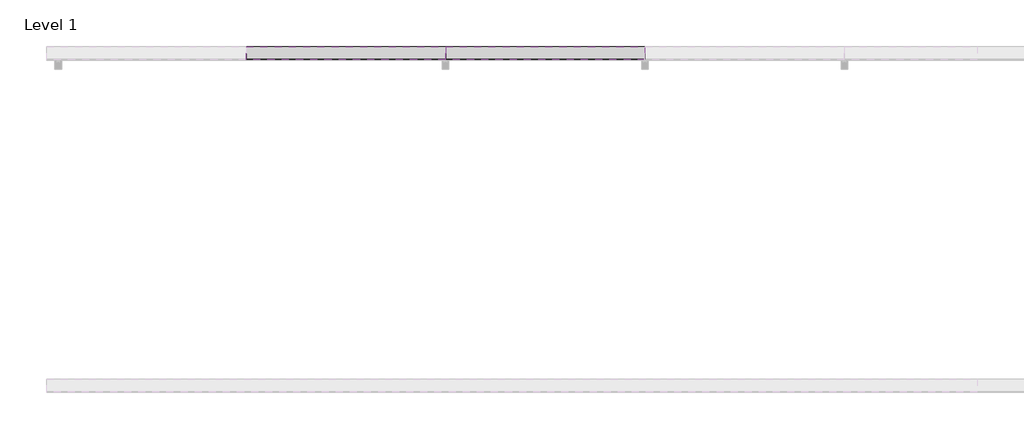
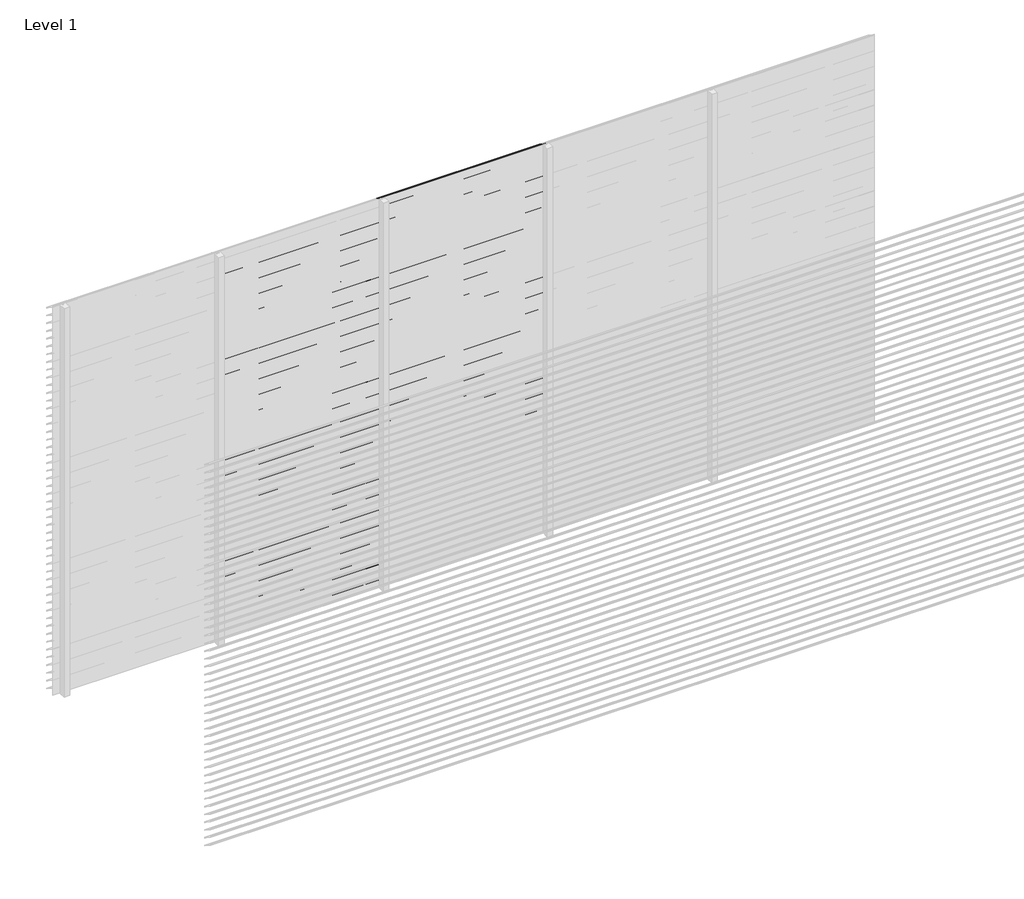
# One storey, part 67 of 153: 84 proxies.
"""IFC4 building model written with IfcOpenShell, lengths in millimetres."""

from ifc_helpers import new_model, si_unit, frame, origin, place, context, project, spatial, polyline, outline, extrude, element, save

model = new_model("IFC4")

# Units and contexts
model_context = context("Model", 3, world=origin())
ifc_project = project(units=[si_unit("LENGTHUNIT", "METRE", prefix="MILLI")], contexts=[model_context])

# Site, building, storey
site = spatial("IfcSite", under=ifc_project)
building = spatial("IfcBuilding", under=site)
storey = spatial("IfcBuildingStorey", under=building, Name="Level 1", Elevation=0.0)

# Proxies
placement = place(None, origin())
element("IfcBuildingElementProxy", 1, Name="Wall Sweeps", at=placement, inside=storey, context=model_context, shape_type="SweptSolid", body=[
    extrude(outline(polyline([(36561.0540136, 2826.0), (36561.0540136, 2820.0), (36559.8040136, 2820.7216933), (36559.8040136, 2825.2538091), (36483.0540136, 2873.9915103), (36483.0540136, 2880.0), (36484.3040136, 2880.0), (36484.3040136, 2874.7377012), (36561.0540136, 2826.0)])), frame((1666.6208099, 0.0, 0.0), z_axis=(1.0, 0.0, 0.0), x_axis=(0.0, 1.0, 0.0)), (0.0, 0.0, 1.0), 1199.9999999),
])
element("IfcBuildingElementProxy", 2, Name="Wall Sweeps", at=placement, inside=storey, context=model_context, shape_type="SweptSolid", body=[
    extrude(outline(polyline([(36561.0540136, 2766.0), (36561.0540136, 2760.0), (36559.8040136, 2760.7216933), (36559.8040136, 2765.2538091), (36483.0540136, 2813.9915103), (36483.0540136, 2820.0), (36484.3040136, 2820.0), (36484.3040136, 2814.7377012), (36561.0540136, 2766.0)])), frame((1666.6208099, 0.0, 0.0), z_axis=(1.0, 0.0, 0.0), x_axis=(0.0, 1.0, 0.0)), (0.0, 0.0, 1.0), 1199.9999999),
])
element("IfcBuildingElementProxy", 3, Name="Wall Sweeps", at=placement, inside=storey, context=model_context, shape_type="SweptSolid", body=[
    extrude(outline(polyline([(36561.0540136, 2706.0), (36561.0540136, 2700.0), (36559.8040136, 2700.7216933), (36559.8040136, 2705.2538091), (36483.0540136, 2753.9915103), (36483.0540136, 2760.0), (36484.3040136, 2760.0), (36484.3040136, 2754.7377012), (36561.0540136, 2706.0)])), frame((1666.6208099, 0.0, 0.0), z_axis=(1.0, 0.0, 0.0), x_axis=(0.0, 1.0, 0.0)), (0.0, 0.0, 1.0), 1199.9999999),
])
element("IfcBuildingElementProxy", 4, Name="Wall Sweeps", at=placement, inside=storey, context=model_context, shape_type="SweptSolid", body=[
    extrude(outline(polyline([(36561.0540136, 2646.0), (36561.0540136, 2640.0), (36559.8040136, 2640.7216933), (36559.8040136, 2645.2538091), (36483.0540136, 2693.9915103), (36483.0540136, 2700.0), (36484.3040136, 2700.0), (36484.3040136, 2694.7377012), (36561.0540136, 2646.0)])), frame((1666.6208099, 0.0, 0.0), z_axis=(1.0, 0.0, 0.0), x_axis=(0.0, 1.0, 0.0)), (0.0, 0.0, 1.0), 1199.9999999),
])
element("IfcBuildingElementProxy", 5, Name="Wall Sweeps", at=placement, inside=storey, context=model_context, shape_type="SweptSolid", body=[
    extrude(outline(polyline([(36561.0540136, 2586.0), (36561.0540136, 2580.0), (36559.8040136, 2580.7216933), (36559.8040136, 2585.2538091), (36483.0540136, 2633.9915103), (36483.0540136, 2640.0), (36484.3040136, 2640.0), (36484.3040136, 2634.7377012), (36561.0540136, 2586.0)])), frame((1666.6208099, 0.0, 0.0), z_axis=(1.0, 0.0, 0.0), x_axis=(0.0, 1.0, 0.0)), (0.0, 0.0, 1.0), 1199.9999999),
])
element("IfcBuildingElementProxy", 6, Name="Wall Sweeps", at=placement, inside=storey, context=model_context, shape_type="SweptSolid", body=[
    extrude(outline(polyline([(36561.0540136, 2526.0), (36561.0540136, 2520.0), (36559.8040136, 2520.7216933), (36559.8040136, 2525.2538091), (36483.0540136, 2573.9915103), (36483.0540136, 2580.0), (36484.3040136, 2580.0), (36484.3040136, 2574.7377012), (36561.0540136, 2526.0)])), frame((1666.6208099, 0.0, 0.0), z_axis=(1.0, 0.0, 0.0), x_axis=(0.0, 1.0, 0.0)), (0.0, 0.0, 1.0), 1199.9999999),
])
element("IfcBuildingElementProxy", 7, Name="Wall Sweeps", at=placement, inside=storey, context=model_context, shape_type="SweptSolid", body=[
    extrude(outline(polyline([(36561.0540136, 2466.0), (36561.0540136, 2460.0), (36559.8040136, 2460.7216933), (36559.8040136, 2465.2538091), (36483.0540136, 2513.9915103), (36483.0540136, 2520.0), (36484.3040136, 2520.0), (36484.3040136, 2514.7377012), (36561.0540136, 2466.0)])), frame((1666.6208099, 0.0, 0.0), z_axis=(1.0, 0.0, 0.0), x_axis=(0.0, 1.0, 0.0)), (0.0, 0.0, 1.0), 1199.9999999),
])
element("IfcBuildingElementProxy", 8, Name="Wall Sweeps", at=placement, inside=storey, context=model_context, shape_type="SweptSolid", body=[
    extrude(outline(polyline([(36561.0540136, 2406.0), (36561.0540136, 2400.0), (36559.8040136, 2400.7216933), (36559.8040136, 2405.2538091), (36483.0540136, 2453.9915103), (36483.0540136, 2460.0), (36484.3040136, 2460.0), (36484.3040136, 2454.7377012), (36561.0540136, 2406.0)])), frame((1666.6208099, 0.0, 0.0), z_axis=(1.0, 0.0, 0.0), x_axis=(0.0, 1.0, 0.0)), (0.0, 0.0, 1.0), 1199.9999999),
])
element("IfcBuildingElementProxy", 9, Name="Wall Sweeps", at=placement, inside=storey, context=model_context, shape_type="SweptSolid", body=[
    extrude(outline(polyline([(36561.0540136, 2346.0), (36561.0540136, 2340.0), (36559.8040136, 2340.7216933), (36559.8040136, 2345.2538091), (36483.0540136, 2393.9915103), (36483.0540136, 2400.0), (36484.3040136, 2400.0), (36484.3040136, 2394.7377012), (36561.0540136, 2346.0)])), frame((1666.6208099, 0.0, 0.0), z_axis=(1.0, 0.0, 0.0), x_axis=(0.0, 1.0, 0.0)), (0.0, 0.0, 1.0), 1199.9999999),
])
element("IfcBuildingElementProxy", 10, Name="Wall Sweeps", at=placement, inside=storey, context=model_context, shape_type="SweptSolid", body=[
    extrude(outline(polyline([(36561.0540136, 2286.0), (36561.0540136, 2280.0), (36559.8040136, 2280.7216933), (36559.8040136, 2285.2538091), (36483.0540136, 2333.9915103), (36483.0540136, 2340.0), (36484.3040136, 2340.0), (36484.3040136, 2334.7377012), (36561.0540136, 2286.0)])), frame((1666.6208099, 0.0, 0.0), z_axis=(1.0, 0.0, 0.0), x_axis=(0.0, 1.0, 0.0)), (0.0, 0.0, 1.0), 1199.9999999),
])
element("IfcBuildingElementProxy", 11, Name="Wall Sweeps", at=placement, inside=storey, context=model_context, shape_type="SweptSolid", body=[
    extrude(outline(polyline([(36561.0540136, 2226.0), (36561.0540136, 2220.0), (36559.8040136, 2220.7216933), (36559.8040136, 2225.2538091), (36483.0540136, 2273.9915103), (36483.0540136, 2280.0), (36484.3040136, 2280.0), (36484.3040136, 2274.7377012), (36561.0540136, 2226.0)])), frame((1666.6208099, 0.0, 0.0), z_axis=(1.0, 0.0, 0.0), x_axis=(0.0, 1.0, 0.0)), (0.0, 0.0, 1.0), 1199.9999999),
])
element("IfcBuildingElementProxy", 12, Name="Wall Sweeps", at=placement, inside=storey, context=model_context, shape_type="SweptSolid", body=[
    extrude(outline(polyline([(36561.0540136, 2166.0), (36561.0540136, 2160.0), (36559.8040136, 2160.7216933), (36559.8040136, 2165.2538091), (36483.0540136, 2213.9915103), (36483.0540136, 2220.0), (36484.3040136, 2220.0), (36484.3040136, 2214.7377012), (36561.0540136, 2166.0)])), frame((1666.6208099, 0.0, 0.0), z_axis=(1.0, 0.0, 0.0), x_axis=(0.0, 1.0, 0.0)), (0.0, 0.0, 1.0), 1199.9999999),
])
element("IfcBuildingElementProxy", 13, Name="Wall Sweeps", at=placement, inside=storey, context=model_context, shape_type="SweptSolid", body=[
    extrude(outline(polyline([(36561.0540136, 2106.0), (36561.0540136, 2100.0), (36559.8040136, 2100.7216933), (36559.8040136, 2105.2538091), (36483.0540136, 2153.9915103), (36483.0540136, 2160.0), (36484.3040136, 2160.0), (36484.3040136, 2154.7377012), (36561.0540136, 2106.0)])), frame((1666.6208099, 0.0, 0.0), z_axis=(1.0, 0.0, 0.0), x_axis=(0.0, 1.0, 0.0)), (0.0, 0.0, 1.0), 1199.9999999),
])
element("IfcBuildingElementProxy", 14, Name="Wall Sweeps", at=placement, inside=storey, context=model_context, shape_type="SweptSolid", body=[
    extrude(outline(polyline([(36561.0540136, 2046.0), (36561.0540136, 2040.0), (36559.8040136, 2040.7216933), (36559.8040136, 2045.2538091), (36483.0540136, 2093.9915103), (36483.0540136, 2100.0), (36484.3040136, 2100.0), (36484.3040136, 2094.7377012), (36561.0540136, 2046.0)])), frame((1666.6208099, 0.0, 0.0), z_axis=(1.0, 0.0, 0.0), x_axis=(0.0, 1.0, 0.0)), (0.0, 0.0, 1.0), 1199.9999999),
])
element("IfcBuildingElementProxy", 15, Name="Wall Sweeps", at=placement, inside=storey, context=model_context, shape_type="SweptSolid", body=[
    extrude(outline(polyline([(36561.0540136, 1986.0), (36561.0540136, 1980.0), (36559.8040136, 1980.7216933), (36559.8040136, 1985.2538091), (36483.0540136, 2033.9915103), (36483.0540136, 2040.0), (36484.3040136, 2040.0), (36484.3040136, 2034.7377012), (36561.0540136, 1986.0)])), frame((1666.6208099, 0.0, 0.0), z_axis=(1.0, 0.0, 0.0), x_axis=(0.0, 1.0, 0.0)), (0.0, 0.0, 1.0), 1199.9999999),
])
element("IfcBuildingElementProxy", 16, Name="Wall Sweeps", at=placement, inside=storey, context=model_context, shape_type="SweptSolid", body=[
    extrude(outline(polyline([(36561.0540136, 1926.0), (36561.0540136, 1920.0), (36559.8040136, 1920.7216933), (36559.8040136, 1925.2538091), (36483.0540136, 1973.9915103), (36483.0540136, 1980.0), (36484.3040136, 1980.0), (36484.3040136, 1974.7377012), (36561.0540136, 1926.0)])), frame((1666.6208099, 0.0, 0.0), z_axis=(1.0, 0.0, 0.0), x_axis=(0.0, 1.0, 0.0)), (0.0, 0.0, 1.0), 1199.9999999),
])
element("IfcBuildingElementProxy", 17, Name="Wall Sweeps", at=placement, inside=storey, context=model_context, shape_type="SweptSolid", body=[
    extrude(outline(polyline([(36561.0540136, 1866.0), (36561.0540136, 1860.0), (36559.8040136, 1860.7216933), (36559.8040136, 1865.2538091), (36483.0540136, 1913.9915103), (36483.0540136, 1920.0), (36484.3040136, 1920.0), (36484.3040136, 1914.7377012), (36561.0540136, 1866.0)])), frame((1666.6208099, 0.0, 0.0), z_axis=(1.0, 0.0, 0.0), x_axis=(0.0, 1.0, 0.0)), (0.0, 0.0, 1.0), 1199.9999999),
])
element("IfcBuildingElementProxy", 18, Name="Wall Sweeps", at=placement, inside=storey, context=model_context, shape_type="SweptSolid", body=[
    extrude(outline(polyline([(36561.0540136, 1806.0), (36561.0540136, 1800.0), (36559.8040136, 1800.7216933), (36559.8040136, 1805.2538091), (36483.0540136, 1853.9915103), (36483.0540136, 1860.0), (36484.3040136, 1860.0), (36484.3040136, 1854.7377012), (36561.0540136, 1806.0)])), frame((1666.6208099, 0.0, 0.0), z_axis=(1.0, 0.0, 0.0), x_axis=(0.0, 1.0, 0.0)), (0.0, 0.0, 1.0), 1199.9999999),
])
element("IfcBuildingElementProxy", 19, Name="Wall Sweeps", at=placement, inside=storey, context=model_context, shape_type="SweptSolid", body=[
    extrude(outline(polyline([(36561.0540136, 1746.0), (36561.0540136, 1740.0), (36559.8040136, 1740.7216933), (36559.8040136, 1745.2538091), (36483.0540136, 1793.9915103), (36483.0540136, 1800.0), (36484.3040136, 1800.0), (36484.3040136, 1794.7377012), (36561.0540136, 1746.0)])), frame((1666.6208099, 0.0, 0.0), z_axis=(1.0, 0.0, 0.0), x_axis=(0.0, 1.0, 0.0)), (0.0, 0.0, 1.0), 1199.9999999),
])
element("IfcBuildingElementProxy", 20, Name="Wall Sweeps", at=placement, inside=storey, context=model_context, shape_type="SweptSolid", body=[
    extrude(outline(polyline([(36561.0540136, 1686.0), (36561.0540136, 1680.0), (36559.8040136, 1680.7216933), (36559.8040136, 1685.2538091), (36483.0540136, 1733.9915103), (36483.0540136, 1740.0), (36484.3040136, 1740.0), (36484.3040136, 1734.7377012), (36561.0540136, 1686.0)])), frame((1666.6208099, 0.0, 0.0), z_axis=(1.0, 0.0, 0.0), x_axis=(0.0, 1.0, 0.0)), (0.0, 0.0, 1.0), 1199.9999999),
])
element("IfcBuildingElementProxy", 21, Name="Wall Sweeps", at=placement, inside=storey, context=model_context, shape_type="SweptSolid", body=[
    extrude(outline(polyline([(36561.0540136, 1626.0), (36561.0540136, 1620.0), (36559.8040136, 1620.7216933), (36559.8040136, 1625.2538091), (36483.0540136, 1673.9915103), (36483.0540136, 1680.0), (36484.3040136, 1680.0), (36484.3040136, 1674.7377012), (36561.0540136, 1626.0)])), frame((1666.6208099, 0.0, 0.0), z_axis=(1.0, 0.0, 0.0), x_axis=(0.0, 1.0, 0.0)), (0.0, 0.0, 1.0), 1199.9999999),
])
element("IfcBuildingElementProxy", 22, Name="Wall Sweeps", at=placement, inside=storey, context=model_context, shape_type="SweptSolid", body=[
    extrude(outline(polyline([(36561.0540136, 1566.0), (36561.0540136, 1560.0), (36559.8040136, 1560.7216933), (36559.8040136, 1565.2538091), (36483.0540136, 1613.9915103), (36483.0540136, 1620.0), (36484.3040136, 1620.0), (36484.3040136, 1614.7377012), (36561.0540136, 1566.0)])), frame((1666.6208099, 0.0, 0.0), z_axis=(1.0, 0.0, 0.0), x_axis=(0.0, 1.0, 0.0)), (0.0, 0.0, 1.0), 1199.9999999),
])
element("IfcBuildingElementProxy", 23, Name="Wall Sweeps", at=placement, inside=storey, context=model_context, shape_type="SweptSolid", body=[
    extrude(outline(polyline([(36561.0540136, 1506.0), (36561.0540136, 1500.0), (36559.8040136, 1500.7216933), (36559.8040136, 1505.2538091), (36483.0540136, 1553.9915103), (36483.0540136, 1560.0), (36484.3040136, 1560.0), (36484.3040136, 1554.7377012), (36561.0540136, 1506.0)])), frame((1666.6208099, 0.0, 0.0), z_axis=(1.0, 0.0, 0.0), x_axis=(0.0, 1.0, 0.0)), (0.0, 0.0, 1.0), 1199.9999999),
])
element("IfcBuildingElementProxy", 24, Name="Wall Sweeps", at=placement, inside=storey, context=model_context, shape_type="SweptSolid", body=[
    extrude(outline(polyline([(36561.0540136, 1446.0), (36561.0540136, 1440.0), (36559.8040136, 1440.7216933), (36559.8040136, 1445.2538091), (36483.0540136, 1493.9915103), (36483.0540136, 1500.0), (36484.3040136, 1500.0), (36484.3040136, 1494.7377012), (36561.0540136, 1446.0)])), frame((1666.6208099, 0.0, 0.0), z_axis=(1.0, 0.0, 0.0), x_axis=(0.0, 1.0, 0.0)), (0.0, 0.0, 1.0), 1199.9999999),
])
element("IfcBuildingElementProxy", 25, Name="Wall Sweeps", at=placement, inside=storey, context=model_context, shape_type="SweptSolid", body=[
    extrude(outline(polyline([(36561.0540136, 1386.0), (36561.0540136, 1380.0), (36559.8040136, 1380.7216933), (36559.8040136, 1385.2538091), (36483.0540136, 1433.9915103), (36483.0540136, 1440.0), (36484.3040136, 1440.0), (36484.3040136, 1434.7377012), (36561.0540136, 1386.0)])), frame((1666.6208099, 0.0, 0.0), z_axis=(1.0, 0.0, 0.0), x_axis=(0.0, 1.0, 0.0)), (0.0, 0.0, 1.0), 1199.9999999),
])
element("IfcBuildingElementProxy", 26, Name="Wall Sweeps", at=placement, inside=storey, context=model_context, shape_type="SweptSolid", body=[
    extrude(outline(polyline([(36561.0540136, 1326.0), (36561.0540136, 1320.0), (36559.8040136, 1320.7216933), (36559.8040136, 1325.2538091), (36483.0540136, 1373.9915103), (36483.0540136, 1380.0), (36484.3040136, 1380.0), (36484.3040136, 1374.7377012), (36561.0540136, 1326.0)])), frame((1666.6208099, 0.0, 0.0), z_axis=(1.0, 0.0, 0.0), x_axis=(0.0, 1.0, 0.0)), (0.0, 0.0, 1.0), 1199.9999999),
])
element("IfcBuildingElementProxy", 27, Name="Wall Sweeps", at=placement, inside=storey, context=model_context, shape_type="SweptSolid", body=[
    extrude(outline(polyline([(36561.0540136, 1266.0), (36561.0540136, 1260.0), (36559.8040136, 1260.7216933), (36559.8040136, 1265.2538091), (36483.0540136, 1313.9915103), (36483.0540136, 1320.0), (36484.3040136, 1320.0), (36484.3040136, 1314.7377012), (36561.0540136, 1266.0)])), frame((1666.6208099, 0.0, 0.0), z_axis=(1.0, 0.0, 0.0), x_axis=(0.0, 1.0, 0.0)), (0.0, 0.0, 1.0), 1199.9999999),
])
element("IfcBuildingElementProxy", 28, Name="Wall Sweeps", at=placement, inside=storey, context=model_context, shape_type="SweptSolid", body=[
    extrude(outline(polyline([(36561.0540136, 1206.0), (36561.0540136, 1200.0), (36559.8040136, 1200.7216933), (36559.8040136, 1205.2538091), (36483.0540136, 1253.9915103), (36483.0540136, 1260.0), (36484.3040136, 1260.0), (36484.3040136, 1254.7377012), (36561.0540136, 1206.0)])), frame((1666.6208099, 0.0, 0.0), z_axis=(1.0, 0.0, 0.0), x_axis=(0.0, 1.0, 0.0)), (0.0, 0.0, 1.0), 1199.9999999),
])
element("IfcBuildingElementProxy", 29, Name="Wall Sweeps", at=placement, inside=storey, context=model_context, shape_type="SweptSolid", body=[
    extrude(outline(polyline([(36561.0540136, 1146.0), (36561.0540136, 1140.0), (36559.8040136, 1140.7216933), (36559.8040136, 1145.2538091), (36483.0540136, 1193.9915103), (36483.0540136, 1200.0), (36484.3040136, 1200.0), (36484.3040136, 1194.7377012), (36561.0540136, 1146.0)])), frame((1666.6208099, 0.0, 0.0), z_axis=(1.0, 0.0, 0.0), x_axis=(0.0, 1.0, 0.0)), (0.0, 0.0, 1.0), 1199.9999999),
])
element("IfcBuildingElementProxy", 30, Name="Wall Sweeps", at=placement, inside=storey, context=model_context, shape_type="SweptSolid", body=[
    extrude(outline(polyline([(36561.0540136, 1086.0), (36561.0540136, 1080.0), (36559.8040136, 1080.7216933), (36559.8040136, 1085.2538091), (36483.0540136, 1133.9915103), (36483.0540136, 1140.0), (36484.3040136, 1140.0), (36484.3040136, 1134.7377012), (36561.0540136, 1086.0)])), frame((1666.6208099, 0.0, 0.0), z_axis=(1.0, 0.0, 0.0), x_axis=(0.0, 1.0, 0.0)), (0.0, 0.0, 1.0), 1199.9999999),
])
element("IfcBuildingElementProxy", 31, Name="Wall Sweeps", at=placement, inside=storey, context=model_context, shape_type="SweptSolid", body=[
    extrude(outline(polyline([(36561.0540136, 1026.0), (36561.0540136, 1020.0), (36559.8040136, 1020.7216933), (36559.8040136, 1025.2538091), (36483.0540136, 1073.9915103), (36483.0540136, 1080.0), (36484.3040136, 1080.0), (36484.3040136, 1074.7377012), (36561.0540136, 1026.0)])), frame((1666.6208099, 0.0, 0.0), z_axis=(1.0, 0.0, 0.0), x_axis=(0.0, 1.0, 0.0)), (0.0, 0.0, 1.0), 1199.9999999),
])
element("IfcBuildingElementProxy", 32, Name="Wall Sweeps", at=placement, inside=storey, context=model_context, shape_type="SweptSolid", body=[
    extrude(outline(polyline([(36561.0540136, 966.0), (36561.0540136, 960.0), (36559.8040136, 960.7216933), (36559.8040136, 965.2538091), (36483.0540136, 1013.9915103), (36483.0540136, 1020.0), (36484.3040136, 1020.0), (36484.3040136, 1014.7377012), (36561.0540136, 966.0)])), frame((1666.6208099, 0.0, 0.0), z_axis=(1.0, 0.0, 0.0), x_axis=(0.0, 1.0, 0.0)), (0.0, 0.0, 1.0), 1199.9999999),
])
element("IfcBuildingElementProxy", 33, Name="Wall Sweeps", at=placement, inside=storey, context=model_context, shape_type="SweptSolid", body=[
    extrude(outline(polyline([(36561.0540136, 906.0), (36561.0540136, 900.0), (36559.8040136, 900.7216933), (36559.8040136, 905.2538091), (36483.0540136, 953.9915103), (36483.0540136, 960.0), (36484.3040136, 960.0), (36484.3040136, 954.7377012), (36561.0540136, 906.0)])), frame((1666.6208099, 0.0, 0.0), z_axis=(1.0, 0.0, 0.0), x_axis=(0.0, 1.0, 0.0)), (0.0, 0.0, 1.0), 1199.9999999),
])
element("IfcBuildingElementProxy", 34, Name="Wall Sweeps", at=placement, inside=storey, context=model_context, shape_type="SweptSolid", body=[
    extrude(outline(polyline([(36561.0540136, 846.0), (36561.0540136, 840.0), (36559.8040136, 840.7216933), (36559.8040136, 845.2538091), (36483.0540136, 893.9915103), (36483.0540136, 900.0), (36484.3040136, 900.0), (36484.3040136, 894.7377012), (36561.0540136, 846.0)])), frame((1666.6208099, 0.0, 0.0), z_axis=(1.0, 0.0, 0.0), x_axis=(0.0, 1.0, 0.0)), (0.0, 0.0, 1.0), 1199.9999999),
])
element("IfcBuildingElementProxy", 35, Name="Wall Sweeps", at=placement, inside=storey, context=model_context, shape_type="SweptSolid", body=[
    extrude(outline(polyline([(36561.0540136, 786.0), (36561.0540136, 780.0), (36559.8040136, 780.7216933), (36559.8040136, 785.2538091), (36483.0540136, 833.9915103), (36483.0540136, 840.0), (36484.3040136, 840.0), (36484.3040136, 834.7377012), (36561.0540136, 786.0)])), frame((1666.6208099, 0.0, 0.0), z_axis=(1.0, 0.0, 0.0), x_axis=(0.0, 1.0, 0.0)), (0.0, 0.0, 1.0), 1199.9999999),
])
element("IfcBuildingElementProxy", 36, Name="Wall Sweeps", at=placement, inside=storey, context=model_context, shape_type="SweptSolid", body=[
    extrude(outline(polyline([(36561.0540136, 726.0), (36561.0540136, 720.0), (36559.8040136, 720.7216933), (36559.8040136, 725.2538091), (36483.0540136, 773.9915103), (36483.0540136, 780.0), (36484.3040136, 780.0), (36484.3040136, 774.7377012), (36561.0540136, 726.0)])), frame((1666.6208099, 0.0, 0.0), z_axis=(1.0, 0.0, 0.0), x_axis=(0.0, 1.0, 0.0)), (0.0, 0.0, 1.0), 1199.9999999),
])
element("IfcBuildingElementProxy", 37, Name="Wall Sweeps", at=placement, inside=storey, context=model_context, shape_type="SweptSolid", body=[
    extrude(outline(polyline([(36561.0540136, 666.0), (36561.0540136, 660.0), (36559.8040136, 660.7216933), (36559.8040136, 665.2538091), (36483.0540136, 713.9915103), (36483.0540136, 720.0), (36484.3040136, 720.0), (36484.3040136, 714.7377012), (36561.0540136, 666.0)])), frame((1666.6208099, 0.0, 0.0), z_axis=(1.0, 0.0, 0.0), x_axis=(0.0, 1.0, 0.0)), (0.0, 0.0, 1.0), 1199.9999999),
])
element("IfcBuildingElementProxy", 38, Name="Wall Sweeps", at=placement, inside=storey, context=model_context, shape_type="SweptSolid", body=[
    extrude(outline(polyline([(36561.0540136, 606.0), (36561.0540136, 600.0), (36559.8040136, 600.7216933), (36559.8040136, 605.2538091), (36483.0540136, 653.9915103), (36483.0540136, 660.0), (36484.3040136, 660.0), (36484.3040136, 654.7377012), (36561.0540136, 606.0)])), frame((1666.6208099, 0.0, 0.0), z_axis=(1.0, 0.0, 0.0), x_axis=(0.0, 1.0, 0.0)), (0.0, 0.0, 1.0), 1199.9999999),
])
element("IfcBuildingElementProxy", 39, Name="Wall Sweeps", at=placement, inside=storey, context=model_context, shape_type="SweptSolid", body=[
    extrude(outline(polyline([(36561.0540136, 546.0), (36561.0540136, 540.0), (36559.8040136, 540.7216933), (36559.8040136, 545.2538091), (36483.0540136, 593.9915103), (36483.0540136, 600.0), (36484.3040136, 600.0), (36484.3040136, 594.7377012), (36561.0540136, 546.0)])), frame((1666.6208099, 0.0, 0.0), z_axis=(1.0, 0.0, 0.0), x_axis=(0.0, 1.0, 0.0)), (0.0, 0.0, 1.0), 1199.9999999),
])
element("IfcBuildingElementProxy", 40, Name="Wall Sweeps", at=placement, inside=storey, context=model_context, shape_type="SweptSolid", body=[
    extrude(outline(polyline([(36561.0540136, 486.0), (36561.0540136, 480.0), (36559.8040136, 480.7216933), (36559.8040136, 485.2538091), (36483.0540136, 533.9915103), (36483.0540136, 540.0), (36484.3040136, 540.0), (36484.3040136, 534.7377012), (36561.0540136, 486.0)])), frame((1666.6208099, 0.0, 0.0), z_axis=(1.0, 0.0, 0.0), x_axis=(0.0, 1.0, 0.0)), (0.0, 0.0, 1.0), 1199.9999999),
])
element("IfcBuildingElementProxy", 41, Name="Wall Sweeps", at=placement, inside=storey, context=model_context, shape_type="SweptSolid", body=[
    extrude(outline(polyline([(36561.0540136, 426.0), (36561.0540136, 420.0), (36559.8040136, 420.7216933), (36559.8040136, 425.2538091), (36483.0540136, 473.9915103), (36483.0540136, 480.0), (36484.3040136, 480.0), (36484.3040136, 474.7377012), (36561.0540136, 426.0)])), frame((1666.6208099, 0.0, 0.0), z_axis=(1.0, 0.0, 0.0), x_axis=(0.0, 1.0, 0.0)), (0.0, 0.0, 1.0), 1199.9999999),
])
element("IfcBuildingElementProxy", 42, Name="Wall Sweeps", at=placement, inside=storey, context=model_context, shape_type="SweptSolid", body=[
    extrude(outline(polyline([(36561.0540136, 366.0), (36561.0540136, 360.0), (36559.8040136, 360.7216933), (36559.8040136, 365.2538091), (36483.0540136, 413.9915103), (36483.0540136, 420.0), (36484.3040136, 420.0), (36484.3040136, 414.7377012), (36561.0540136, 366.0)])), frame((1666.6208099, 0.0, 0.0), z_axis=(1.0, 0.0, 0.0), x_axis=(0.0, 1.0, 0.0)), (0.0, 0.0, 1.0), 1199.9999999),
])
element("IfcBuildingElementProxy", 43, Name="Wall Sweeps", at=placement, inside=storey, context=model_context, shape_type="SweptSolid", body=[
    extrude(outline(polyline([(36561.0540136, 306.0), (36561.0540136, 300.0), (36559.8040136, 300.7216933), (36559.8040136, 305.2538091), (36483.0540136, 353.9915103), (36483.0540136, 360.0), (36484.3040136, 360.0), (36484.3040136, 354.7377012), (36561.0540136, 306.0)])), frame((1666.6208099, 0.0, 0.0), z_axis=(1.0, 0.0, 0.0), x_axis=(0.0, 1.0, 0.0)), (0.0, 0.0, 1.0), 1199.9999999),
])
element("IfcBuildingElementProxy", 44, Name="Wall Sweeps", at=placement, inside=storey, context=model_context, shape_type="SweptSolid", body=[
    extrude(outline(polyline([(36561.0540136, 246.0), (36561.0540136, 240.0), (36559.8040136, 240.7216933), (36559.8040136, 245.2538091), (36483.0540136, 293.9915103), (36483.0540136, 300.0), (36484.3040136, 300.0), (36484.3040136, 294.7377012), (36561.0540136, 246.0)])), frame((1666.6208099, 0.0, 0.0), z_axis=(1.0, 0.0, 0.0), x_axis=(0.0, 1.0, 0.0)), (0.0, 0.0, 1.0), 1199.9999999),
])
element("IfcBuildingElementProxy", 45, Name="Wall Sweeps", at=placement, inside=storey, context=model_context, shape_type="SweptSolid", body=[
    extrude(outline(polyline([(36561.0540136, 186.0), (36561.0540136, 180.0), (36559.8040136, 180.7216933), (36559.8040136, 185.2538091), (36483.0540136, 233.9915103), (36483.0540136, 240.0), (36484.3040136, 240.0), (36484.3040136, 234.7377012), (36561.0540136, 186.0)])), frame((1666.6208099, 0.0, 0.0), z_axis=(1.0, 0.0, 0.0), x_axis=(0.0, 1.0, 0.0)), (0.0, 0.0, 1.0), 1199.9999999),
])
element("IfcBuildingElementProxy", 46, Name="Wall Sweeps", at=placement, inside=storey, context=model_context, shape_type="SweptSolid", body=[
    extrude(outline(polyline([(36561.0540136, 126.0), (36561.0540136, 120.0), (36559.8040136, 120.7216933), (36559.8040136, 125.2538091), (36483.0540136, 173.9915103), (36483.0540136, 180.0), (36484.3040136, 180.0), (36484.3040136, 174.7377012), (36561.0540136, 126.0)])), frame((1666.6208099, 0.0, 0.0), z_axis=(1.0, 0.0, 0.0), x_axis=(0.0, 1.0, 0.0)), (0.0, 0.0, 1.0), 1199.9999999),
])
element("IfcBuildingElementProxy", 47, Name="Wall Sweeps", at=placement, inside=storey, context=model_context, shape_type="SweptSolid", body=[
    extrude(outline(polyline([(36561.0540136, 66.0), (36561.0540136, 60.0), (36559.8040136, 60.7216933), (36559.8040136, 65.2538091), (36483.0540136, 113.9915103), (36483.0540136, 120.0), (36484.3040136, 120.0), (36484.3040136, 114.7377012), (36561.0540136, 66.0)])), frame((1666.6208099, 0.0, 0.0), z_axis=(1.0, 0.0, 0.0), x_axis=(0.0, 1.0, 0.0)), (0.0, 0.0, 1.0), 1199.9999999),
])
element("IfcBuildingElementProxy", 48, Name="Wall Sweeps", at=placement, inside=storey, context=model_context, shape_type="SweptSolid", body=[
    extrude(outline(polyline([(36561.0540136, 6.0), (36561.0540136, 0.0), (36559.8040136, 0.7216933), (36559.8040136, 5.2538091), (36483.0540136, 53.9915103), (36483.0540136, 60.0), (36484.3040136, 60.0), (36484.3040136, 54.7377012), (36561.0540136, 6.0)])), frame((1666.6208099, 0.0, 0.0), z_axis=(1.0, 0.0, 0.0), x_axis=(0.0, 1.0, 0.0)), (0.0, 0.0, 1.0), 1199.9999999),
])
element("IfcBuildingElementProxy", 49, Name="Wall Sweeps", at=placement, inside=storey, context=model_context, shape_type="SweptSolid", body=[
    extrude(outline(polyline([(36561.0540136, 2946.0), (36561.0540136, 2940.0), (36559.8040136, 2940.7216933), (36559.8040136, 2945.2538091), (36483.0540136, 2993.9915103), (36483.0540136, 3000.0), (36484.3040136, 3000.0), (36484.3040136, 2994.7377012), (36561.0540136, 2946.0)])), frame((2866.6208097, 0.0, 0.0), z_axis=(1.0, 0.0, 0.0), x_axis=(0.0, 1.0, 0.0)), (0.0, 0.0, 1.0), 1199.9999999),
])
element("IfcBuildingElementProxy", 50, Name="Wall Sweeps", at=placement, inside=storey, context=model_context, shape_type="SweptSolid", body=[
    extrude(outline(polyline([(36561.0540136, 2886.0), (36561.0540136, 2880.0), (36559.8040136, 2880.7216933), (36559.8040136, 2885.2538091), (36483.0540136, 2933.9915103), (36483.0540136, 2940.0), (36484.3040136, 2940.0), (36484.3040136, 2934.7377012), (36561.0540136, 2886.0)])), frame((2866.6208097, 0.0, 0.0), z_axis=(1.0, 0.0, 0.0), x_axis=(0.0, 1.0, 0.0)), (0.0, 0.0, 1.0), 1199.9999999),
])
element("IfcBuildingElementProxy", 51, Name="Wall Sweeps", at=placement, inside=storey, context=model_context, shape_type="SweptSolid", body=[
    extrude(outline(polyline([(36561.0540136, 2826.0), (36561.0540136, 2820.0), (36559.8040136, 2820.7216933), (36559.8040136, 2825.2538091), (36483.0540136, 2873.9915103), (36483.0540136, 2880.0), (36484.3040136, 2880.0), (36484.3040136, 2874.7377012), (36561.0540136, 2826.0)])), frame((2866.6208097, 0.0, 0.0), z_axis=(1.0, 0.0, 0.0), x_axis=(0.0, 1.0, 0.0)), (0.0, 0.0, 1.0), 1199.9999999),
])
element("IfcBuildingElementProxy", 52, Name="Wall Sweeps", at=placement, inside=storey, context=model_context, shape_type="SweptSolid", body=[
    extrude(outline(polyline([(36561.0540136, 2766.0), (36561.0540136, 2760.0), (36559.8040136, 2760.7216933), (36559.8040136, 2765.2538091), (36483.0540136, 2813.9915103), (36483.0540136, 2820.0), (36484.3040136, 2820.0), (36484.3040136, 2814.7377012), (36561.0540136, 2766.0)])), frame((2866.6208097, 0.0, 0.0), z_axis=(1.0, 0.0, 0.0), x_axis=(0.0, 1.0, 0.0)), (0.0, 0.0, 1.0), 1199.9999999),
])
element("IfcBuildingElementProxy", 53, Name="Wall Sweeps", at=placement, inside=storey, context=model_context, shape_type="SweptSolid", body=[
    extrude(outline(polyline([(36561.0540136, 2706.0), (36561.0540136, 2700.0), (36559.8040136, 2700.7216933), (36559.8040136, 2705.2538091), (36483.0540136, 2753.9915103), (36483.0540136, 2760.0), (36484.3040136, 2760.0), (36484.3040136, 2754.7377012), (36561.0540136, 2706.0)])), frame((2866.6208097, 0.0, 0.0), z_axis=(1.0, 0.0, 0.0), x_axis=(0.0, 1.0, 0.0)), (0.0, 0.0, 1.0), 1199.9999999),
])
element("IfcBuildingElementProxy", 54, Name="Wall Sweeps", at=placement, inside=storey, context=model_context, shape_type="SweptSolid", body=[
    extrude(outline(polyline([(36561.0540136, 2646.0), (36561.0540136, 2640.0), (36559.8040136, 2640.7216933), (36559.8040136, 2645.2538091), (36483.0540136, 2693.9915103), (36483.0540136, 2700.0), (36484.3040136, 2700.0), (36484.3040136, 2694.7377012), (36561.0540136, 2646.0)])), frame((2866.6208097, 0.0, 0.0), z_axis=(1.0, 0.0, 0.0), x_axis=(0.0, 1.0, 0.0)), (0.0, 0.0, 1.0), 1199.9999999),
])
element("IfcBuildingElementProxy", 55, Name="Wall Sweeps", at=placement, inside=storey, context=model_context, shape_type="SweptSolid", body=[
    extrude(outline(polyline([(36561.0540136, 2586.0), (36561.0540136, 2580.0), (36559.8040136, 2580.7216933), (36559.8040136, 2585.2538091), (36483.0540136, 2633.9915103), (36483.0540136, 2640.0), (36484.3040136, 2640.0), (36484.3040136, 2634.7377012), (36561.0540136, 2586.0)])), frame((2866.6208097, 0.0, 0.0), z_axis=(1.0, 0.0, 0.0), x_axis=(0.0, 1.0, 0.0)), (0.0, 0.0, 1.0), 1199.9999999),
])
element("IfcBuildingElementProxy", 56, Name="Wall Sweeps", at=placement, inside=storey, context=model_context, shape_type="SweptSolid", body=[
    extrude(outline(polyline([(36561.0540136, 2526.0), (36561.0540136, 2520.0), (36559.8040136, 2520.7216933), (36559.8040136, 2525.2538091), (36483.0540136, 2573.9915103), (36483.0540136, 2580.0), (36484.3040136, 2580.0), (36484.3040136, 2574.7377012), (36561.0540136, 2526.0)])), frame((2866.6208097, 0.0, 0.0), z_axis=(1.0, 0.0, 0.0), x_axis=(0.0, 1.0, 0.0)), (0.0, 0.0, 1.0), 1199.9999999),
])
element("IfcBuildingElementProxy", 57, Name="Wall Sweeps", at=placement, inside=storey, context=model_context, shape_type="SweptSolid", body=[
    extrude(outline(polyline([(36561.0540136, 2466.0), (36561.0540136, 2460.0), (36559.8040136, 2460.7216933), (36559.8040136, 2465.2538091), (36483.0540136, 2513.9915103), (36483.0540136, 2520.0), (36484.3040136, 2520.0), (36484.3040136, 2514.7377012), (36561.0540136, 2466.0)])), frame((2866.6208097, 0.0, 0.0), z_axis=(1.0, 0.0, 0.0), x_axis=(0.0, 1.0, 0.0)), (0.0, 0.0, 1.0), 1199.9999999),
])
element("IfcBuildingElementProxy", 58, Name="Wall Sweeps", at=placement, inside=storey, context=model_context, shape_type="SweptSolid", body=[
    extrude(outline(polyline([(36561.0540136, 2406.0), (36561.0540136, 2400.0), (36559.8040136, 2400.7216933), (36559.8040136, 2405.2538091), (36483.0540136, 2453.9915103), (36483.0540136, 2460.0), (36484.3040136, 2460.0), (36484.3040136, 2454.7377012), (36561.0540136, 2406.0)])), frame((2866.6208097, 0.0, 0.0), z_axis=(1.0, 0.0, 0.0), x_axis=(0.0, 1.0, 0.0)), (0.0, 0.0, 1.0), 1199.9999999),
])
element("IfcBuildingElementProxy", 59, Name="Wall Sweeps", at=placement, inside=storey, context=model_context, shape_type="SweptSolid", body=[
    extrude(outline(polyline([(36561.0540136, 2346.0), (36561.0540136, 2340.0), (36559.8040136, 2340.7216933), (36559.8040136, 2345.2538091), (36483.0540136, 2393.9915103), (36483.0540136, 2400.0), (36484.3040136, 2400.0), (36484.3040136, 2394.7377012), (36561.0540136, 2346.0)])), frame((2866.6208097, 0.0, 0.0), z_axis=(1.0, 0.0, 0.0), x_axis=(0.0, 1.0, 0.0)), (0.0, 0.0, 1.0), 1199.9999999),
])
element("IfcBuildingElementProxy", 60, Name="Wall Sweeps", at=placement, inside=storey, context=model_context, shape_type="SweptSolid", body=[
    extrude(outline(polyline([(36561.0540136, 2286.0), (36561.0540136, 2280.0), (36559.8040136, 2280.7216933), (36559.8040136, 2285.2538091), (36483.0540136, 2333.9915103), (36483.0540136, 2340.0), (36484.3040136, 2340.0), (36484.3040136, 2334.7377012), (36561.0540136, 2286.0)])), frame((2866.6208097, 0.0, 0.0), z_axis=(1.0, 0.0, 0.0), x_axis=(0.0, 1.0, 0.0)), (0.0, 0.0, 1.0), 1199.9999999),
])
element("IfcBuildingElementProxy", 61, Name="Wall Sweeps", at=placement, inside=storey, context=model_context, shape_type="SweptSolid", body=[
    extrude(outline(polyline([(36561.0540136, 2226.0), (36561.0540136, 2220.0), (36559.8040136, 2220.7216933), (36559.8040136, 2225.2538091), (36483.0540136, 2273.9915103), (36483.0540136, 2280.0), (36484.3040136, 2280.0), (36484.3040136, 2274.7377012), (36561.0540136, 2226.0)])), frame((2866.6208097, 0.0, 0.0), z_axis=(1.0, 0.0, 0.0), x_axis=(0.0, 1.0, 0.0)), (0.0, 0.0, 1.0), 1199.9999999),
])
element("IfcBuildingElementProxy", 62, Name="Wall Sweeps", at=placement, inside=storey, context=model_context, shape_type="SweptSolid", body=[
    extrude(outline(polyline([(36561.0540136, 2166.0), (36561.0540136, 2160.0), (36559.8040136, 2160.7216933), (36559.8040136, 2165.2538091), (36483.0540136, 2213.9915103), (36483.0540136, 2220.0), (36484.3040136, 2220.0), (36484.3040136, 2214.7377012), (36561.0540136, 2166.0)])), frame((2866.6208097, 0.0, 0.0), z_axis=(1.0, 0.0, 0.0), x_axis=(0.0, 1.0, 0.0)), (0.0, 0.0, 1.0), 1199.9999999),
])
element("IfcBuildingElementProxy", 63, Name="Wall Sweeps", at=placement, inside=storey, context=model_context, shape_type="SweptSolid", body=[
    extrude(outline(polyline([(36561.0540136, 2106.0), (36561.0540136, 2100.0), (36559.8040136, 2100.7216933), (36559.8040136, 2105.2538091), (36483.0540136, 2153.9915103), (36483.0540136, 2160.0), (36484.3040136, 2160.0), (36484.3040136, 2154.7377012), (36561.0540136, 2106.0)])), frame((2866.6208097, 0.0, 0.0), z_axis=(1.0, 0.0, 0.0), x_axis=(0.0, 1.0, 0.0)), (0.0, 0.0, 1.0), 1199.9999999),
])
element("IfcBuildingElementProxy", 64, Name="Wall Sweeps", at=placement, inside=storey, context=model_context, shape_type="SweptSolid", body=[
    extrude(outline(polyline([(36561.0540136, 2046.0), (36561.0540136, 2040.0), (36559.8040136, 2040.7216933), (36559.8040136, 2045.2538091), (36483.0540136, 2093.9915103), (36483.0540136, 2100.0), (36484.3040136, 2100.0), (36484.3040136, 2094.7377012), (36561.0540136, 2046.0)])), frame((2866.6208097, 0.0, 0.0), z_axis=(1.0, 0.0, 0.0), x_axis=(0.0, 1.0, 0.0)), (0.0, 0.0, 1.0), 1199.9999999),
])
element("IfcBuildingElementProxy", 65, Name="Wall Sweeps", at=placement, inside=storey, context=model_context, shape_type="SweptSolid", body=[
    extrude(outline(polyline([(36561.0540136, 1986.0), (36561.0540136, 1980.0), (36559.8040136, 1980.7216933), (36559.8040136, 1985.2538091), (36483.0540136, 2033.9915103), (36483.0540136, 2040.0), (36484.3040136, 2040.0), (36484.3040136, 2034.7377012), (36561.0540136, 1986.0)])), frame((2866.6208097, 0.0, 0.0), z_axis=(1.0, 0.0, 0.0), x_axis=(0.0, 1.0, 0.0)), (0.0, 0.0, 1.0), 1199.9999999),
])
element("IfcBuildingElementProxy", 66, Name="Wall Sweeps", at=placement, inside=storey, context=model_context, shape_type="SweptSolid", body=[
    extrude(outline(polyline([(36561.0540136, 1926.0), (36561.0540136, 1920.0), (36559.8040136, 1920.7216933), (36559.8040136, 1925.2538091), (36483.0540136, 1973.9915103), (36483.0540136, 1980.0), (36484.3040136, 1980.0), (36484.3040136, 1974.7377012), (36561.0540136, 1926.0)])), frame((2866.6208097, 0.0, 0.0), z_axis=(1.0, 0.0, 0.0), x_axis=(0.0, 1.0, 0.0)), (0.0, 0.0, 1.0), 1199.9999999),
])
element("IfcBuildingElementProxy", 67, Name="Wall Sweeps", at=placement, inside=storey, context=model_context, shape_type="SweptSolid", body=[
    extrude(outline(polyline([(36561.0540136, 1866.0), (36561.0540136, 1860.0), (36559.8040136, 1860.7216933), (36559.8040136, 1865.2538091), (36483.0540136, 1913.9915103), (36483.0540136, 1920.0), (36484.3040136, 1920.0), (36484.3040136, 1914.7377012), (36561.0540136, 1866.0)])), frame((2866.6208097, 0.0, 0.0), z_axis=(1.0, 0.0, 0.0), x_axis=(0.0, 1.0, 0.0)), (0.0, 0.0, 1.0), 1199.9999999),
])
element("IfcBuildingElementProxy", 68, Name="Wall Sweeps", at=placement, inside=storey, context=model_context, shape_type="SweptSolid", body=[
    extrude(outline(polyline([(36561.0540136, 1806.0), (36561.0540136, 1800.0), (36559.8040136, 1800.7216933), (36559.8040136, 1805.2538091), (36483.0540136, 1853.9915103), (36483.0540136, 1860.0), (36484.3040136, 1860.0), (36484.3040136, 1854.7377012), (36561.0540136, 1806.0)])), frame((2866.6208097, 0.0, 0.0), z_axis=(1.0, 0.0, 0.0), x_axis=(0.0, 1.0, 0.0)), (0.0, 0.0, 1.0), 1199.9999999),
])
element("IfcBuildingElementProxy", 69, Name="Wall Sweeps", at=placement, inside=storey, context=model_context, shape_type="SweptSolid", body=[
    extrude(outline(polyline([(36561.0540136, 1746.0), (36561.0540136, 1740.0), (36559.8040136, 1740.7216933), (36559.8040136, 1745.2538091), (36483.0540136, 1793.9915103), (36483.0540136, 1800.0), (36484.3040136, 1800.0), (36484.3040136, 1794.7377012), (36561.0540136, 1746.0)])), frame((2866.6208097, 0.0, 0.0), z_axis=(1.0, 0.0, 0.0), x_axis=(0.0, 1.0, 0.0)), (0.0, 0.0, 1.0), 1199.9999999),
])
element("IfcBuildingElementProxy", 70, Name="Wall Sweeps", at=placement, inside=storey, context=model_context, shape_type="SweptSolid", body=[
    extrude(outline(polyline([(36561.0540136, 1686.0), (36561.0540136, 1680.0), (36559.8040136, 1680.7216933), (36559.8040136, 1685.2538091), (36483.0540136, 1733.9915103), (36483.0540136, 1740.0), (36484.3040136, 1740.0), (36484.3040136, 1734.7377012), (36561.0540136, 1686.0)])), frame((2866.6208097, 0.0, 0.0), z_axis=(1.0, 0.0, 0.0), x_axis=(0.0, 1.0, 0.0)), (0.0, 0.0, 1.0), 1199.9999999),
])
element("IfcBuildingElementProxy", 71, Name="Wall Sweeps", at=placement, inside=storey, context=model_context, shape_type="SweptSolid", body=[
    extrude(outline(polyline([(36561.0540136, 1626.0), (36561.0540136, 1620.0), (36559.8040136, 1620.7216933), (36559.8040136, 1625.2538091), (36483.0540136, 1673.9915103), (36483.0540136, 1680.0), (36484.3040136, 1680.0), (36484.3040136, 1674.7377012), (36561.0540136, 1626.0)])), frame((2866.6208097, 0.0, 0.0), z_axis=(1.0, 0.0, 0.0), x_axis=(0.0, 1.0, 0.0)), (0.0, 0.0, 1.0), 1199.9999999),
])
element("IfcBuildingElementProxy", 72, Name="Wall Sweeps", at=placement, inside=storey, context=model_context, shape_type="SweptSolid", body=[
    extrude(outline(polyline([(36561.0540136, 1566.0), (36561.0540136, 1560.0), (36559.8040136, 1560.7216933), (36559.8040136, 1565.2538091), (36483.0540136, 1613.9915103), (36483.0540136, 1620.0), (36484.3040136, 1620.0), (36484.3040136, 1614.7377012), (36561.0540136, 1566.0)])), frame((2866.6208097, 0.0, 0.0), z_axis=(1.0, 0.0, 0.0), x_axis=(0.0, 1.0, 0.0)), (0.0, 0.0, 1.0), 1199.9999999),
])
element("IfcBuildingElementProxy", 73, Name="Wall Sweeps", at=placement, inside=storey, context=model_context, shape_type="SweptSolid", body=[
    extrude(outline(polyline([(36561.0540136, 1506.0), (36561.0540136, 1500.0), (36559.8040136, 1500.7216933), (36559.8040136, 1505.2538091), (36483.0540136, 1553.9915103), (36483.0540136, 1560.0), (36484.3040136, 1560.0), (36484.3040136, 1554.7377012), (36561.0540136, 1506.0)])), frame((2866.6208097, 0.0, 0.0), z_axis=(1.0, 0.0, 0.0), x_axis=(0.0, 1.0, 0.0)), (0.0, 0.0, 1.0), 1199.9999999),
])
element("IfcBuildingElementProxy", 74, Name="Wall Sweeps", at=placement, inside=storey, context=model_context, shape_type="SweptSolid", body=[
    extrude(outline(polyline([(36561.0540136, 1446.0), (36561.0540136, 1440.0), (36559.8040136, 1440.7216933), (36559.8040136, 1445.2538091), (36483.0540136, 1493.9915103), (36483.0540136, 1500.0), (36484.3040136, 1500.0), (36484.3040136, 1494.7377012), (36561.0540136, 1446.0)])), frame((2866.6208097, 0.0, 0.0), z_axis=(1.0, 0.0, 0.0), x_axis=(0.0, 1.0, 0.0)), (0.0, 0.0, 1.0), 1199.9999999),
])
element("IfcBuildingElementProxy", 75, Name="Wall Sweeps", at=placement, inside=storey, context=model_context, shape_type="SweptSolid", body=[
    extrude(outline(polyline([(36561.0540136, 1386.0), (36561.0540136, 1380.0), (36559.8040136, 1380.7216933), (36559.8040136, 1385.2538091), (36483.0540136, 1433.9915103), (36483.0540136, 1440.0), (36484.3040136, 1440.0), (36484.3040136, 1434.7377012), (36561.0540136, 1386.0)])), frame((2866.6208097, 0.0, 0.0), z_axis=(1.0, 0.0, 0.0), x_axis=(0.0, 1.0, 0.0)), (0.0, 0.0, 1.0), 1199.9999999),
])
element("IfcBuildingElementProxy", 76, Name="Wall Sweeps", at=placement, inside=storey, context=model_context, shape_type="SweptSolid", body=[
    extrude(outline(polyline([(36561.0540136, 1326.0), (36561.0540136, 1320.0), (36559.8040136, 1320.7216933), (36559.8040136, 1325.2538091), (36483.0540136, 1373.9915103), (36483.0540136, 1380.0), (36484.3040136, 1380.0), (36484.3040136, 1374.7377012), (36561.0540136, 1326.0)])), frame((2866.6208097, 0.0, 0.0), z_axis=(1.0, 0.0, 0.0), x_axis=(0.0, 1.0, 0.0)), (0.0, 0.0, 1.0), 1199.9999999),
])
element("IfcBuildingElementProxy", 77, Name="Wall Sweeps", at=placement, inside=storey, context=model_context, shape_type="SweptSolid", body=[
    extrude(outline(polyline([(36561.0540136, 1266.0), (36561.0540136, 1260.0), (36559.8040136, 1260.7216933), (36559.8040136, 1265.2538091), (36483.0540136, 1313.9915103), (36483.0540136, 1320.0), (36484.3040136, 1320.0), (36484.3040136, 1314.7377012), (36561.0540136, 1266.0)])), frame((2866.6208097, 0.0, 0.0), z_axis=(1.0, 0.0, 0.0), x_axis=(0.0, 1.0, 0.0)), (0.0, 0.0, 1.0), 1199.9999999),
])
element("IfcBuildingElementProxy", 78, Name="Wall Sweeps", at=placement, inside=storey, context=model_context, shape_type="SweptSolid", body=[
    extrude(outline(polyline([(36561.0540136, 1206.0), (36561.0540136, 1200.0), (36559.8040136, 1200.7216933), (36559.8040136, 1205.2538091), (36483.0540136, 1253.9915103), (36483.0540136, 1260.0), (36484.3040136, 1260.0), (36484.3040136, 1254.7377012), (36561.0540136, 1206.0)])), frame((2866.6208097, 0.0, 0.0), z_axis=(1.0, 0.0, 0.0), x_axis=(0.0, 1.0, 0.0)), (0.0, 0.0, 1.0), 1199.9999999),
])
element("IfcBuildingElementProxy", 79, Name="Wall Sweeps", at=placement, inside=storey, context=model_context, shape_type="SweptSolid", body=[
    extrude(outline(polyline([(36561.0540136, 1146.0), (36561.0540136, 1140.0), (36559.8040136, 1140.7216933), (36559.8040136, 1145.2538091), (36483.0540136, 1193.9915103), (36483.0540136, 1200.0), (36484.3040136, 1200.0), (36484.3040136, 1194.7377012), (36561.0540136, 1146.0)])), frame((2866.6208097, 0.0, 0.0), z_axis=(1.0, 0.0, 0.0), x_axis=(0.0, 1.0, 0.0)), (0.0, 0.0, 1.0), 1199.9999999),
])
element("IfcBuildingElementProxy", 80, Name="Wall Sweeps", at=placement, inside=storey, context=model_context, shape_type="SweptSolid", body=[
    extrude(outline(polyline([(36561.0540136, 1086.0), (36561.0540136, 1080.0), (36559.8040136, 1080.7216933), (36559.8040136, 1085.2538091), (36483.0540136, 1133.9915103), (36483.0540136, 1140.0), (36484.3040136, 1140.0), (36484.3040136, 1134.7377012), (36561.0540136, 1086.0)])), frame((2866.6208097, 0.0, 0.0), z_axis=(1.0, 0.0, 0.0), x_axis=(0.0, 1.0, 0.0)), (0.0, 0.0, 1.0), 1199.9999999),
])
element("IfcBuildingElementProxy", 81, Name="Wall Sweeps", at=placement, inside=storey, context=model_context, shape_type="SweptSolid", body=[
    extrude(outline(polyline([(36561.0540136, 1026.0), (36561.0540136, 1020.0), (36559.8040136, 1020.7216933), (36559.8040136, 1025.2538091), (36483.0540136, 1073.9915103), (36483.0540136, 1080.0), (36484.3040136, 1080.0), (36484.3040136, 1074.7377012), (36561.0540136, 1026.0)])), frame((2866.6208097, 0.0, 0.0), z_axis=(1.0, 0.0, 0.0), x_axis=(0.0, 1.0, 0.0)), (0.0, 0.0, 1.0), 1199.9999999),
])
element("IfcBuildingElementProxy", 82, Name="Wall Sweeps", at=placement, inside=storey, context=model_context, shape_type="SweptSolid", body=[
    extrude(outline(polyline([(36561.0540136, 966.0), (36561.0540136, 960.0), (36559.8040136, 960.7216933), (36559.8040136, 965.2538091), (36483.0540136, 1013.9915103), (36483.0540136, 1020.0), (36484.3040136, 1020.0), (36484.3040136, 1014.7377012), (36561.0540136, 966.0)])), frame((2866.6208097, 0.0, 0.0), z_axis=(1.0, 0.0, 0.0), x_axis=(0.0, 1.0, 0.0)), (0.0, 0.0, 1.0), 1199.9999999),
])
element("IfcBuildingElementProxy", 83, Name="Wall Sweeps", at=placement, inside=storey, context=model_context, shape_type="SweptSolid", body=[
    extrude(outline(polyline([(36561.0540136, 906.0), (36561.0540136, 900.0), (36559.8040136, 900.7216933), (36559.8040136, 905.2538091), (36483.0540136, 953.9915103), (36483.0540136, 960.0), (36484.3040136, 960.0), (36484.3040136, 954.7377012), (36561.0540136, 906.0)])), frame((2866.6208097, 0.0, 0.0), z_axis=(1.0, 0.0, 0.0), x_axis=(0.0, 1.0, 0.0)), (0.0, 0.0, 1.0), 1199.9999999),
])
element("IfcBuildingElementProxy", 84, Name="Wall Sweeps", at=placement, inside=storey, context=model_context, shape_type="SweptSolid", body=[
    extrude(outline(polyline([(36561.0540136, 846.0), (36561.0540136, 840.0), (36559.8040136, 840.7216933), (36559.8040136, 845.2538091), (36483.0540136, 893.9915103), (36483.0540136, 900.0), (36484.3040136, 900.0), (36484.3040136, 894.7377012), (36561.0540136, 846.0)])), frame((2866.6208097, 0.0, 0.0), z_axis=(1.0, 0.0, 0.0), x_axis=(0.0, 1.0, 0.0)), (0.0, 0.0, 1.0), 1199.9999999),
])

save(model, "model.ifc")
